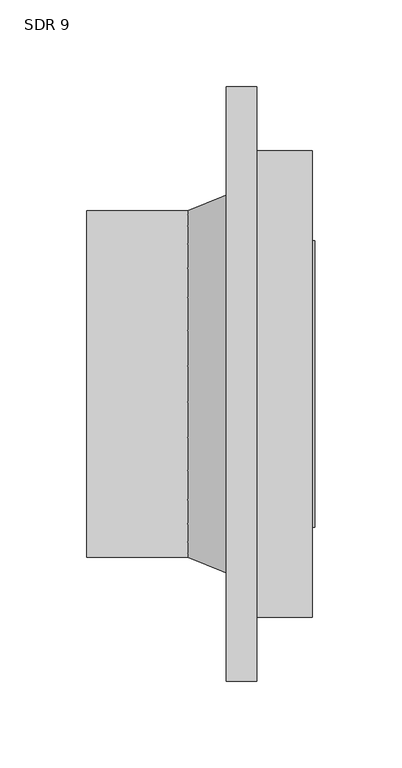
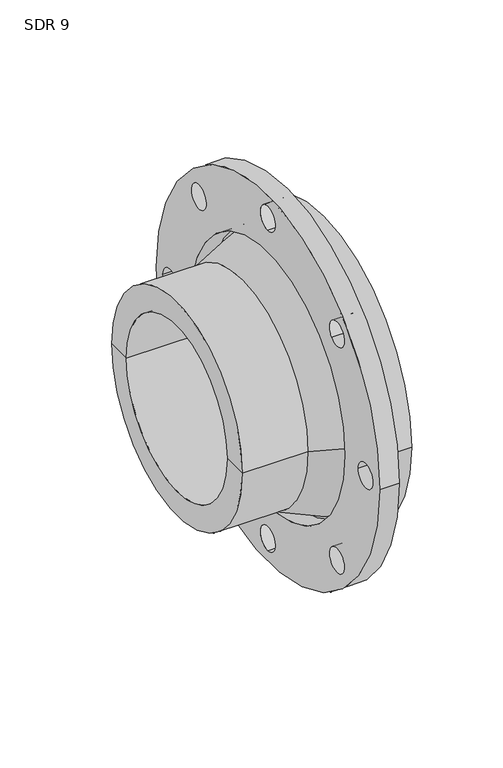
"""IFC4 building model written with IfcOpenShell, lengths in millimetres: valve geometry, Aquatherm - Flange Adapter Butt-Weld : SDR 9."""

import ifcopenshell
import ifcopenshell.guid

model = None  # the IFC model being written
_history = None  # IfcOwnerHistory: only IFC2X3 demands one
_inside = {}  # id of a spatial element -> (the spatial element, [elements in it])
_under = {}  # id of a project, library or spatial element -> (it, [spatial elements below it])
_declared = {}  # id of a project -> (the project, [libraries it declares])
_typed = {}  # id of a type object -> (the type object, [elements of that type])
_made_of = {}  # id of a material, layer set ... -> (it, [elements and type objects made of it])


def new_model(schema):
    """Start an empty IFC model of exactly this schema.

    Asked for "IFC4X3", IfcOpenShell would pick the latest addendum, in which some entities
    have other attributes; the version numbers below select the first issue.
    IFC2X3 requires an IfcOwnerHistory on every rooted entity: one is made here for all.
    """
    global model, _history
    if schema == "IFC4X3":
        model = ifcopenshell.file(schema_version=(4, 3, 0, 0))
    else:
        model = ifcopenshell.file(schema=schema)
    _inside.clear()
    _under.clear()
    _declared.clear()
    _typed.clear()
    _made_of.clear()
    _history = None
    if model.schema == "IFC2X3":
        org = make("IfcOrganization", Name="unknown")
        user = make(
            "IfcPersonAndOrganization",
            ThePerson=make("IfcPerson", FamilyName="unknown"),
            TheOrganization=org,
        )
        app = make(
            "IfcApplication",
            ApplicationDeveloper=org,
            Version="unknown",
            ApplicationFullName="unknown",
            ApplicationIdentifier="unknown",
        )
        _history = make(
            "IfcOwnerHistory",
            OwningUser=user,
            OwningApplication=app,
            ChangeAction="ADDED",
            CreationDate=0,
        )
    return model


def make(cls, **values):
    """One entity of the class cls with the attributes given. An attribute that is None is left unset."""
    return model.create_entity(
        cls, **{name: value for name, value in values.items() if value is not None}
    )


def rooted(cls, **values):
    """An entity with a GlobalId (a new one), such as an element, a storey or a relation."""
    return make(cls, GlobalId=ifcopenshell.guid.new(), OwnerHistory=_history, **values)


def si_unit(unit_type, name, prefix=None):
    """IfcSIUnit, for example si_unit("LENGTHUNIT", "METRE", prefix="MILLI")."""
    return make("IfcSIUnit", UnitType=unit_type, Prefix=prefix, Name=name)


def assignment(units):
    """IfcUnitAssignment: the units of a project."""
    return None if units is None else make("IfcUnitAssignment", Units=units)


def point(xyz):
    """IfcCartesianPoint."""
    return None if xyz is None else make("IfcCartesianPoint", Coordinates=xyz)


def direction(xyz):
    """IfcDirection."""
    return None if xyz is None else make("IfcDirection", DirectionRatios=xyz)


def frame(location, z_axis=None, x_axis=None):
    """IfcAxis2Placement3D, a coordinate frame: its origin and axes. An axis left out is left unset."""
    return make(
        "IfcAxis2Placement3D",
        Location=point(location),
        Axis=direction(z_axis),
        RefDirection=direction(x_axis),
    )


def frame_2d(location, x_axis=None):
    """IfcAxis2Placement2D, a coordinate frame in the plane: its origin and x axis."""
    return make(
        "IfcAxis2Placement2D", Location=point(location), RefDirection=direction(x_axis)
    )


def origin():
    """The frame at (0, 0, 0) with its axes left unset."""
    return frame((0.0, 0.0, 0.0))


def origin_2d():
    """The frame at (0, 0) in the plane with its x axis left unset."""
    return frame_2d((0.0, 0.0))


def place(relative_to, where):
    """IfcLocalPlacement: puts the frame where relative to a parent placement (None: the world)."""
    return make(
        "IfcLocalPlacement", PlacementRelTo=relative_to, RelativePlacement=where
    )


def context(
    kind, dimensions, precision=None, world=None, true_north=None, identifier=None
):
    """IfcGeometricRepresentationContext, for example the 3D "Model" context."""
    return make(
        "IfcGeometricRepresentationContext",
        ContextIdentifier=identifier,
        ContextType=kind,
        CoordinateSpaceDimension=dimensions,
        Precision=precision,
        WorldCoordinateSystem=world,
        TrueNorth=true_north,
    )


def project(units=None, contexts=None):
    """IfcProject with its units and contexts."""
    return rooted(
        "IfcProject",
        Name="project",
        RepresentationContexts=contexts,
        UnitsInContext=assignment(units),
    )


def spatial(cls, under=None, at=None, **own):
    """A site, building, storey or space (cls), placed at a placement, below another one or the project."""
    s = rooted(cls, ObjectPlacement=at, **own)
    if under is not None:
        _under.setdefault(under.id(), (under, []))[1].append(s)
    return s


def polyline(points):
    """IfcPolyline through the points."""
    return make("IfcPolyline", Points=[point(p) for p in points])


def circle_curve(where, radius):
    """IfcCircle in the frame where."""
    return make("IfcCircle", Position=where, Radius=radius)


def trimmed(basis, trim1, trim2, sense, master):
    """IfcTrimmedCurve: the piece of a basis curve between two trims."""
    return make(
        "IfcTrimmedCurve",
        BasisCurve=basis,
        Trim1=trim1,
        Trim2=trim2,
        SenseAgreement=sense,
        MasterRepresentation=master,
    )


def segment(curve, same_sense, transition):
    """IfcCompositeCurveSegment."""
    return make(
        "IfcCompositeCurveSegment",
        Transition=transition,
        SameSense=same_sense,
        ParentCurve=curve,
    )


def composite_curve(segments, self_intersect=None):
    """IfcCompositeCurve: segments joined end to end."""
    return make("IfcCompositeCurve", Segments=segments, SelfIntersect=self_intersect)


def outline(outer, holes=None, kind="AREA"):
    """IfcArbitraryClosedProfileDef: a profile drawn as a closed curve; with holes, ...WithVoids."""
    if holes is None:
        return make("IfcArbitraryClosedProfileDef", ProfileType=kind, OuterCurve=outer)
    return make(
        "IfcArbitraryProfileDefWithVoids",
        ProfileType=kind,
        OuterCurve=outer,
        InnerCurves=holes,
    )


def extrude(swept, where, along, depth):
    """IfcExtrudedAreaSolid: the profile swept, set in the frame where, extruded along a direction by depth."""
    return make(
        "IfcExtrudedAreaSolid",
        SweptArea=swept,
        Position=where,
        ExtrudedDirection=direction(along),
        Depth=depth,
    )


def shape(context_of_items, identifier, shape_type, items):
    """IfcShapeRepresentation: the items that make up one representation, for example the "Body"."""
    return make(
        "IfcShapeRepresentation",
        ContextOfItems=context_of_items,
        RepresentationIdentifier=identifier,
        RepresentationType=shape_type,
        Items=items,
    )


def source(mapping_origin, context_of_items, identifier, shape_type, items):
    """IfcRepresentationMap: a shape defined once, which mapped items show again and again."""
    return make(
        "IfcRepresentationMap",
        MappingOrigin=mapping_origin,
        MappedRepresentation=shape(context_of_items, identifier, shape_type, items),
    )


def transform(
    local_origin,
    x_axis=None,
    y_axis=None,
    z_axis=None,
    scale=None,
    scale2=None,
    scale3=None,
    uniform=True,
):
    """IfcCartesianTransformationOperator3D, or its non-uniform kind. x_axis, y_axis, z_axis: its Axis1, 2, 3."""
    if uniform:
        return make(
            "IfcCartesianTransformationOperator3D",
            Axis1=direction(x_axis),
            Axis2=direction(y_axis),
            LocalOrigin=point(local_origin),
            Scale=scale,
            Axis3=direction(z_axis),
        )
    return make(
        "IfcCartesianTransformationOperator3DnonUniform",
        Axis1=direction(x_axis),
        Axis2=direction(y_axis),
        LocalOrigin=point(local_origin),
        Scale=scale,
        Axis3=direction(z_axis),
        Scale2=scale2,
        Scale3=scale3,
    )


def mapped(mapping_source, mapping_target):
    """IfcMappedItem: shows the shape of a source again, moved by a transform."""
    return make(
        "IfcMappedItem", MappingSource=mapping_source, MappingTarget=mapping_target
    )


def made_of(thing, what):
    """Note that an element or type object is made of a material, layer set ...; save() writes the relation."""
    if what is not None:
        _made_of.setdefault(what.id(), (what, []))[1].append(thing)
    return thing


def element(
    cls,
    number,
    at=None,
    inside=None,
    cuts=None,
    type_object=None,
    material=None,
    context=None,
    identifier="Body",
    shape_type=None,
    held_by="IfcProductDefinitionShape",
    body=None,
    shapes=None,
    **own,
):
    """One element of the class cls, such as IfcWall. Its Tag is "e" and its number.

    at: its placement. inside: the storey or other place that contains it. cuts: it is an
    opening in that element (IfcRelVoidsElement). A single representation is given by context,
    identifier, shape_type and body (its items); several are given by shapes. held_by: the class
    of the entity that holds the representations. save() writes the other relations.
    """
    e = rooted(cls, Tag="e%d" % number, ObjectPlacement=at, **own)
    if body is not None:
        shapes = [shape(context, identifier, shape_type, body)]
    if shapes is not None:
        e.Representation = make(held_by, Representations=shapes)
    if inside is not None:
        _inside.setdefault(inside.id(), (inside, []))[1].append(e)
    if cuts is not None:
        rooted(
            "IfcRelVoidsElement", RelatingBuildingElement=cuts, RelatedOpeningElement=e
        )
    if type_object is not None:
        _typed.setdefault(type_object.id(), (type_object, []))[1].append(e)
    return made_of(e, material)


def aggregate(whole, parts):
    """IfcRelAggregates: a whole, such as a stair, and the parts it consists of."""
    return rooted("IfcRelAggregates", RelatingObject=whole, RelatedObjects=parts)


def save(model, path):
    """Write the relations noted so far, then the file.

    IfcRelAggregates (storeys below a building ...), IfcRelContainedInSpatialStructure (elements
    in a storey), IfcRelDefinesByType, IfcRelAssociatesMaterial and IfcRelDeclares: one each for
    every whole, place, type object, material and project.
    """
    for whole, parts in _under.values():
        aggregate(whole, parts)
    for where, things in _inside.values():
        rooted(
            "IfcRelContainedInSpatialStructure",
            RelatedElements=things,
            RelatingStructure=where,
        )
    for kind, things in _typed.values():
        rooted("IfcRelDefinesByType", RelatedObjects=things, RelatingType=kind)
    for what, things in _made_of.values():
        rooted("IfcRelAssociatesMaterial", RelatedObjects=things, RelatingMaterial=what)
    for by, libraries in _declared.values():
        rooted("IfcRelDeclares", RelatingContext=by, RelatedDefinitions=libraries)
    model.write(path)


def plane_surface(at):
    """IfcPlane: the flat surface through the origin of the frame at, square to its z axis."""
    return make("IfcPlane", Position=at)


def cylinder_surface(at, radius):
    """IfcCylindricalSurface: all points at the distance radius from the z axis of the frame at."""
    return make("IfcCylindricalSurface", Position=at, Radius=radius)


def revolved_surface(curve, axis_point, axis_direction):
    """IfcSurfaceOfRevolution: the curve turned about the line through axis_point along axis_direction."""
    return make(
        "IfcSurfaceOfRevolution",
        SweptCurve=make("IfcArbitraryOpenProfileDef", ProfileType="CURVE", Curve=curve),
        AxisPosition=make("IfcAxis1Placement", Location=point(axis_point), Axis=direction(axis_direction)),
    )


def advanced_brep(points, edges, surfaces, faces):
    """IfcAdvancedBrep: a solid bounded by faces that lie on surfaces and meet in shared edges.

    An edge is (start, end): straight between two places in points (the first is 0);
    or (start, end, curve); or (start, end, curve, False) where it runs against its curve.
    A face is (place in surfaces, loops), or (place, loops, False) where it looks against
    its surface's normal. A loop lists edges by number (the first is 1), with a minus sign
    where the edge is run from its end to its start. The first loop is the outer one.
    """
    corners = [point(p) for p in points]
    vertices = [make("IfcVertexPoint", VertexGeometry=c) for c in corners]
    made = []
    for start, end, *more in edges:
        made.append(
            make(
                "IfcEdgeCurve",
                EdgeStart=vertices[start],
                EdgeEnd=vertices[end],
                EdgeGeometry=more[0] if more else make("IfcPolyline", Points=[corners[start], corners[end]]),
                SameSense=more[1] if len(more) > 1 else True,
            )
        )
    hull = []
    for where, loops, *sense in faces:
        bounds = []
        for j, loop in enumerate(loops):
            ring = [make("IfcOrientedEdge", EdgeElement=made[abs(k) - 1], Orientation=k > 0) for k in loop]
            bounds.append(
                make(
                    "IfcFaceOuterBound" if j == 0 else "IfcFaceBound",
                    Bound=make("IfcEdgeLoop", EdgeList=ring),
                    Orientation=True,
                )
            )
        hull.append(make("IfcAdvancedFace", Bounds=bounds, FaceSurface=surfaces[where], SameSense=sense[0] if sense else True))
    return make("IfcAdvancedBrep", Outer=make("IfcClosedShell", CfsFaces=hull))


def sdr_9_a948e289(model_context):
    return source(origin(), model_context, "Body", "SolidModel", [
        extrude(outline(composite_curve([segment(trimmed(circle_curve(origin_2d(), 171.45), [point((171.45, 0.0))], [point((-171.45, 0.0))], False, "CARTESIAN"), True, "CONTINUOUS"), segment(trimmed(circle_curve(origin_2d(), 171.45), [point((-171.45, 0.0))], [point((171.45, 0.0))], False, "CARTESIAN"), True, "CONTINUOUS")], self_intersect=False), holes=[composite_curve([segment(trimmed(circle_curve(origin_2d(), 118.237), [point((118.237, 0.0))], [point((-118.237, 0.0))], True, "CARTESIAN"), True, "CONTINUOUS"), segment(trimmed(circle_curve(origin_2d(), 118.237), [point((-118.237, 0.0))], [point((118.237, 0.0))], True, "CARTESIAN"), True, "CONTINUOUS")], self_intersect=False), composite_curve([segment(trimmed(circle_curve(frame_2d((-149.86, 0.0)), 11.176), [point((-138.684, 0.0))], [point((-161.036, 0.0))], True, "CARTESIAN"), True, "CONTINUOUS"), segment(trimmed(circle_curve(frame_2d((-149.86, 0.0)), 11.176), [point((-161.036, 0.0))], [point((-138.684, 0.0))], True, "CARTESIAN"), True, "CONTINUOUS")], self_intersect=False), composite_curve([segment(trimmed(circle_curve(frame_2d((-105.9670222, -105.9670222)), 11.176), [point((-98.0643968, -98.0643968))], [point((-113.8696476, -113.8696476))], True, "CARTESIAN"), True, "CONTINUOUS"), segment(trimmed(circle_curve(frame_2d((-105.9670222, -105.9670222)), 11.176), [point((-113.8696476, -113.8696476))], [point((-98.0643968, -98.0643968))], True, "CARTESIAN"), True, "CONTINUOUS")], self_intersect=False), composite_curve([segment(trimmed(circle_curve(frame_2d((-105.9670222, 105.9670222)), 11.176), [point((-98.0643968, 98.0643968))], [point((-113.8696476, 113.8696476))], True, "CARTESIAN"), True, "CONTINUOUS"), segment(trimmed(circle_curve(frame_2d((-105.9670222, 105.9670222)), 11.176), [point((-113.8696476, 113.8696476))], [point((-98.0643968, 98.0643968))], True, "CARTESIAN"), True, "CONTINUOUS")], self_intersect=False), composite_curve([segment(trimmed(circle_curve(frame_2d((0.0, 149.86)), 11.176), [point((0.0, 138.684))], [point((0.0, 161.036))], True, "CARTESIAN"), True, "CONTINUOUS"), segment(trimmed(circle_curve(frame_2d((0.0, 149.86)), 11.176), [point((0.0, 161.036))], [point((0.0, 138.684))], True, "CARTESIAN"), True, "CONTINUOUS")], self_intersect=False), composite_curve([segment(trimmed(circle_curve(frame_2d((105.9670222, 105.9670222)), 11.176), [point((98.0643968, 98.0643968))], [point((113.8696476, 113.8696476))], True, "CARTESIAN"), True, "CONTINUOUS"), segment(trimmed(circle_curve(frame_2d((105.9670222, 105.9670222)), 11.176), [point((113.8696476, 113.8696476))], [point((98.0643968, 98.0643968))], True, "CARTESIAN"), True, "CONTINUOUS")], self_intersect=False), composite_curve([segment(trimmed(circle_curve(frame_2d((149.86, 0.0)), 11.176), [point((138.684, 0.0))], [point((161.036, 0.0))], True, "CARTESIAN"), True, "CONTINUOUS"), segment(trimmed(circle_curve(frame_2d((149.86, 0.0)), 11.176), [point((161.036, 0.0))], [point((138.684, 0.0))], True, "CARTESIAN"), True, "CONTINUOUS")], self_intersect=False), composite_curve([segment(trimmed(circle_curve(frame_2d((105.9670222, -105.9670222)), 11.176), [point((98.0643968, -98.0643968))], [point((113.8696476, -113.8696476))], True, "CARTESIAN"), True, "CONTINUOUS"), segment(trimmed(circle_curve(frame_2d((105.9670222, -105.9670222)), 11.176), [point((113.8696476, -113.8696476))], [point((98.0643968, -98.0643968))], True, "CARTESIAN"), True, "CONTINUOUS")], self_intersect=False), composite_curve([segment(trimmed(circle_curve(frame_2d((0.0, -149.86)), 11.176), [point((0.0, -138.684))], [point((0.0, -161.036))], True, "CARTESIAN"), True, "CONTINUOUS"), segment(trimmed(circle_curve(frame_2d((0.0, -149.86)), 11.176), [point((0.0, -161.036))], [point((0.0, -138.684))], True, "CARTESIAN"), True, "CONTINUOUS")], self_intersect=False)]), frame((-17.526, 0.0, 0.0), z_axis=(1.0, 0.0, 0.0), x_axis=(0.0, 1.0, 0.0)), (0.0, 0.0, 1.0), 17.526),
        advanced_brep(
        [(32.004, -134.62, 0.0), (0.0, -134.62, 0.0), (0.0, 134.62, 0.0), (32.004, 134.62, 0.0), (33.5915, -77.597, 0.0), (33.5915, -82.677, 0.0), (33.5915, 82.677, 0.0), (33.5915, 77.597, 0.0), (-98.044, -77.597, 0.0), (-98.044, 77.597, 0.0), (-98.044, -99.949, 0.0), (-98.044, 99.949, 0.0), (-39.878, -99.949, 0.0), (-39.878, 99.949, 0.0), (0.0, -115.951, 0.0), (0.0, 115.951, 0.0), (32.004, -82.677, 0.0), (32.004, 82.677, 0.0)],
        [
            (0, 1),
            (1, 2, circle_curve(frame((0.0, 0.0, 0.0), z_axis=(1.0, 0.0, 0.0), x_axis=(0.0, 1.0, 0.0)), 134.62)),
            (2, 3),
            (3, 0, circle_curve(frame((32.004, 0.0, 0.0), z_axis=(-1.0, 0.0, 0.0), x_axis=(0.0, 1.0, 0.0)), 134.62)),
            (2, 1, circle_curve(frame((0.0, 0.0, 0.0), z_axis=(1.0, 0.0, 0.0), x_axis=(0.0, 1.0, 0.0)), 134.62)),
            (0, 3, circle_curve(frame((32.004, 0.0, 0.0), z_axis=(-1.0, 0.0, 0.0), x_axis=(0.0, 1.0, 0.0)), 134.62)),
            (4, 5),
            (5, 6, circle_curve(frame((33.5915, 0.0, 0.0), z_axis=(1.0, 0.0, 0.0), x_axis=(0.0, 1.0, 0.0)), 82.677)),
            (6, 7),
            (7, 4, circle_curve(frame((33.5915, 0.0, 0.0), z_axis=(-1.0, 0.0, 0.0), x_axis=(0.0, 1.0, 0.0)), 77.597)),
            (6, 5, circle_curve(frame((33.5915, 0.0, 0.0), z_axis=(1.0, 0.0, 0.0), x_axis=(0.0, 1.0, 0.0)), 82.677)),
            (4, 7, circle_curve(frame((33.5915, 0.0, 0.0), z_axis=(-1.0, 0.0, 0.0), x_axis=(0.0, 1.0, 0.0)), 77.597)),
            (8, 4),
            (7, 9),
            (9, 8, circle_curve(frame((-98.044, 0.0, 0.0), z_axis=(-1.0, 0.0, 0.0), x_axis=(0.0, 1.0, 0.0)), 77.597)),
            (8, 9, circle_curve(frame((-98.044, 0.0, 0.0), z_axis=(-1.0, 0.0, 0.0), x_axis=(0.0, 1.0, 0.0)), 77.597)),
            (10, 8),
            (9, 11),
            (11, 10, circle_curve(frame((-98.044, 0.0, 0.0), z_axis=(-1.0, 0.0, 0.0), x_axis=(0.0, 1.0, 0.0)), 99.949)),
            (10, 11, circle_curve(frame((-98.044, 0.0, 0.0), z_axis=(-1.0, 0.0, 0.0), x_axis=(0.0, 1.0, 0.0)), 99.949)),
            (12, 10),
            (11, 13),
            (13, 12, circle_curve(frame((-39.878, 0.0, 0.0), z_axis=(-1.0, 0.0, 0.0), x_axis=(0.0, 1.0, 0.0)), 99.949)),
            (12, 13, circle_curve(frame((-39.878, 0.0, 0.0), z_axis=(-1.0, 0.0, 0.0), x_axis=(0.0, 1.0, 0.0)), 99.949)),
            (1, 14),
            (14, 15, circle_curve(frame((0.0, 0.0, 0.0), z_axis=(1.0, 0.0, 0.0), x_axis=(0.0, 1.0, 0.0)), 115.951)),
            (15, 2),
            (15, 14, circle_curve(frame((0.0, 0.0, 0.0), z_axis=(1.0, 0.0, 0.0), x_axis=(0.0, 1.0, 0.0)), 115.951)),
            (16, 0),
            (3, 17),
            (17, 16, circle_curve(frame((32.004, 0.0, 0.0), z_axis=(-1.0, 0.0, 0.0), x_axis=(0.0, 1.0, 0.0)), 82.677)),
            (16, 17, circle_curve(frame((32.004, 0.0, 0.0), z_axis=(-1.0, 0.0, 0.0), x_axis=(0.0, 1.0, 0.0)), 82.677)),
            (5, 16),
            (17, 6),
            (14, 12),
            (13, 15),
        ],
        [
            cylinder_surface(frame((1472.6429321, 0.0, 0.0), z_axis=(1.0, 0.0, 0.0), x_axis=(0.0, 1.0, 0.0)), 134.62),
            plane_surface(frame((33.5915, 0.0, 0.0), z_axis=(1.0, 0.0, 0.0), x_axis=(0.0, 1.0, 0.0))),
            revolved_surface(polyline([(33.591499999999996, 77.597, 0.0), (-98.0440000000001, 77.597, 0.0)]), (1472.6429321, 0.0, 0.0), (1.0, 0.0, 0.0)),
            plane_surface(frame((-98.044, 0.0, 0.0), z_axis=(-1.0, 0.0, 0.0), x_axis=(0.0, 1.0, 0.0))),
            cylinder_surface(frame((1472.6429321, 0.0, 0.0), z_axis=(1.0, 0.0, 0.0), x_axis=(0.0, 1.0, 0.0)), 99.949),
            plane_surface(frame((0.0, 0.0, 0.0), z_axis=(-1.0, 0.0, 0.0), x_axis=(0.0, 1.0, 0.0))),
            plane_surface(frame((32.004, 0.0, 0.0), z_axis=(1.0, 0.0, 0.0), x_axis=(0.0, 1.0, 0.0))),
            cylinder_surface(frame((1472.6429321, 0.0, 0.0), z_axis=(1.0, 0.0, 0.0), x_axis=(0.0, 1.0, 0.0)), 82.677),
            revolved_surface(polyline([(-39.878, 99.949, 0.0), (0.0, 115.951, 0.0)]), (1472.6429321, 0.0, 0.0), (1.0, 0.0, 0.0)),
        ],
        [
            (0, [[1, 2, 3, 4]]),
            (0, [[-3, 5, -1, 6]]),
            (1, [[7, 8, 9, 10]]),
            (1, [[-9, 11, -7, 12]]),
            (2, [[13, -10, 14, 15]]),
            (2, [[-14, -12, -13, 16]]),
            (3, [[17, -15, 18, 19]]),
            (3, [[-18, -16, -17, 20]]),
            (4, [[21, -19, 22, 23]]),
            (4, [[-22, -20, -21, 24]]),
            (5, [[25, 26, 27, -2]]),
            (5, [[-27, 28, -25, -5]]),
            (6, [[29, -4, 30, 31]]),
            (6, [[-30, -6, -29, 32]]),
            (7, [[33, -31, 34, -8]]),
            (7, [[-34, -32, -33, -11]]),
            (8, [[35, -23, 36, -26]]),
            (8, [[-36, -24, -35, -28]]),
        ],
    ),
    ])


if __name__ == "__main__":
    model = new_model("IFC4")
    model_context = context("Model", 3, world=origin())
    ifc_project = project(units=[si_unit("LENGTHUNIT", "METRE", prefix="MILLI")], contexts=[model_context])
    site = spatial("IfcSite", under=ifc_project)
    building = spatial("IfcBuilding", under=site)
    placement = place(None, origin())
    sdr_9_shape = sdr_9_a948e289(model_context)
    element("IfcValve", 1, ObjectType="Aquatherm - Flange Adapter Butt-Weld : SDR 9", at=placement, inside=building, context=model_context, shape_type="MappedRepresentation", body=[
        mapped(sdr_9_shape, transform((0.0, 0.0, 0.0), x_axis=(1.0, 0.0, 0.0), y_axis=(0.0, 1.0, 0.0), z_axis=(0.0, 0.0, 1.0))),
    ])
    save(model, "model.ifc")
